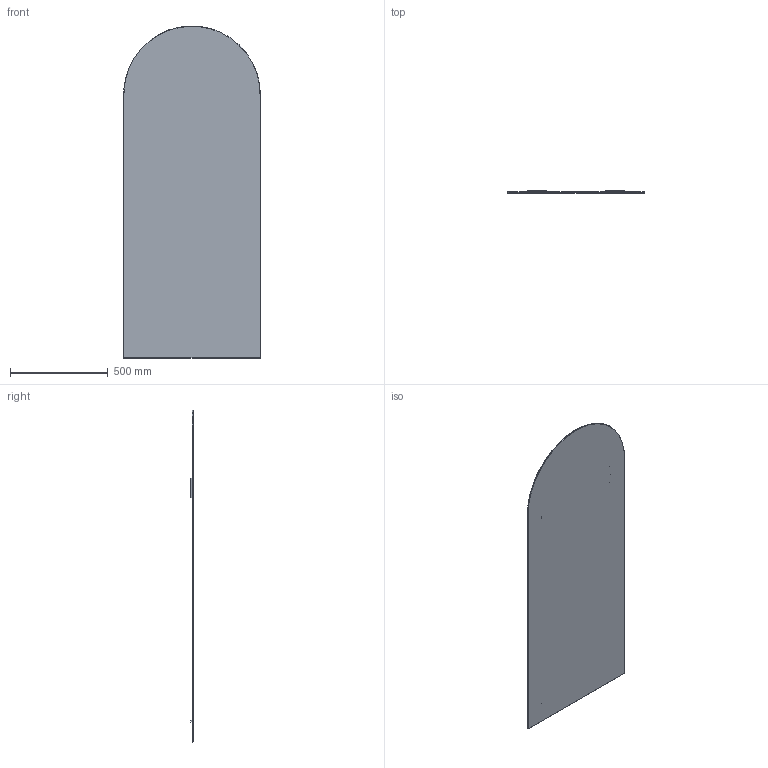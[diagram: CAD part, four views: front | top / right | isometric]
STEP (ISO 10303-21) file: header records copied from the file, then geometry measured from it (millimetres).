
FILE_DESCRIPTION(/* description */ (''),/* implementation_level */ '2;1');
FILE_NAME(/* name */ 'GALLER~1',/* time_stamp */ '2024-01-09T15:40:05+01:00',/* author */ (''),/* organization */ (''),/* preprocessor_version */ 'ST-DEVELOPER v16.5',/* originating_system */ '',/* authorisation */ '');
FILE_SCHEMA (('AUTOMOTIVE_DESIGN'));
Length unit declared in the file: millimetre
Products named in the file (1): Document
Bounding box: 700 x 11 x 1699.78 mm (x, y, z)
Volume: 5807052.1 mm3; surface area: 2338433.5 mm2
Topology: 5 solids, 5 shells, 41 faces, 88 edges, 56 vertices
Faces by surface type: plane 33, bspline 8
Entity records: 1018 total; most frequent: CARTESIAN_POINT 362, ORIENTED_EDGE 162, EDGE_CURVE 81, B_SPLINE_CURVE_WITH_KNOTS 74, VERTEX_POINT 50, ADVANCED_FACE 41, FACE_OUTER_BOUND 41, EDGE_LOOP 41
